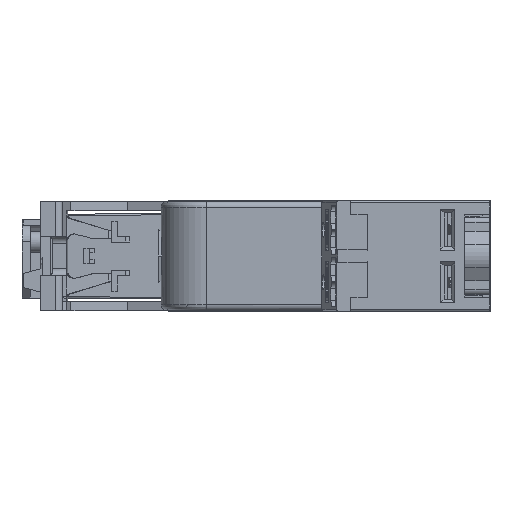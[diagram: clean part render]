
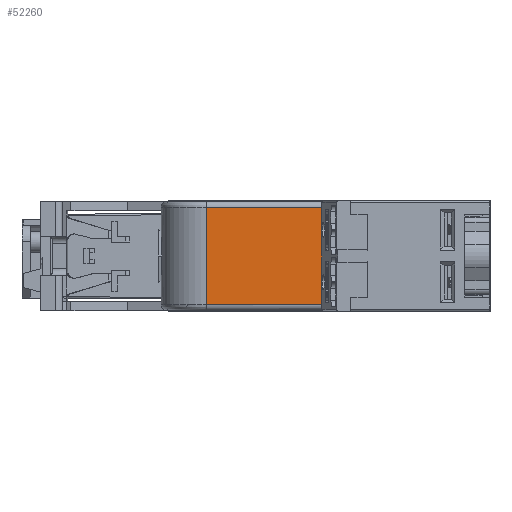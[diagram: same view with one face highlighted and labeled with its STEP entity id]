
A CAD part, left-side view. The second image highlights one B-rep face of the part: STEP entity #52260.
In plain terms, the highlighted planar face has unit normal (-1, 0, 0).
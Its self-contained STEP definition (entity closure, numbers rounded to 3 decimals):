
#2179=ORIENTED_EDGE('',*,*,#17530,.T.);
#2180=ORIENTED_EDGE('',*,*,#17531,.T.);
#2181=ORIENTED_EDGE('',*,*,#17532,.T.);
#2182=ORIENTED_EDGE('',*,*,#17503,.F.);
#17503=EDGE_CURVE('',#25479,#25480,#30640,.T.);
#17530=EDGE_CURVE('',#25479,#25497,#30657,.T.);
#17531=EDGE_CURVE('',#25497,#25498,#30658,.T.);
#17532=EDGE_CURVE('',#25498,#25480,#30659,.T.);
#25479=VERTEX_POINT('',#93723);
#25480=VERTEX_POINT('',#93725);
#25497=VERTEX_POINT('',#93855);
#25498=VERTEX_POINT('',#93857);
#30640=LINE('',#93724,#37264);
#30657=LINE('',#93854,#37281);
#30658=LINE('',#93856,#37282);
#30659=LINE('',#93858,#37283);
#37264=VECTOR('',#79322,1000.);
#37281=VECTOR('',#79353,1000.);
#37282=VECTOR('',#79354,1000.);
#37283=VECTOR('',#79355,1000.);
#43874=EDGE_LOOP('',(#2179,#2180,#2181,#2182));
#46981=FACE_BOUND('',#43874,.T.);
#50086=PLANE('',#75414);
#52260=ADVANCED_FACE('LABEL',(#46981),#50086,.T.);
#75414=AXIS2_PLACEMENT_3D('',#93853,#79351,#79352);
#79322=DIRECTION('',(0.,0.,1.));
#79351=DIRECTION('',(-1.,0.,0.));
#79352=DIRECTION('',(0.,-1.,0.));
#79353=DIRECTION('',(0.,-1.,0.));
#79354=DIRECTION('',(0.,0.,1.));
#79355=DIRECTION('',(0.,1.,0.));
#93723=CARTESIAN_POINT('',(13.77,40.443,53.05));
#93724=CARTESIAN_POINT('',(13.77,40.443,53.05));
#93725=CARTESIAN_POINT('',(13.77,40.443,66.95));
#93853=CARTESIAN_POINT('',(13.77,40.467,53.024));
#93854=CARTESIAN_POINT('',(13.77,40.443,53.05));
#93855=CARTESIAN_POINT('',(13.77,17.543,53.05));
#93856=CARTESIAN_POINT('',(13.77,17.543,53.05));
#93857=CARTESIAN_POINT('',(13.77,17.543,66.95));
#93858=CARTESIAN_POINT('',(13.77,17.543,66.95));
